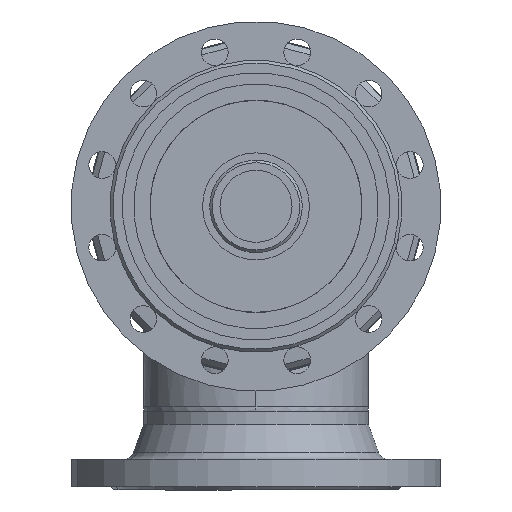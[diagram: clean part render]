
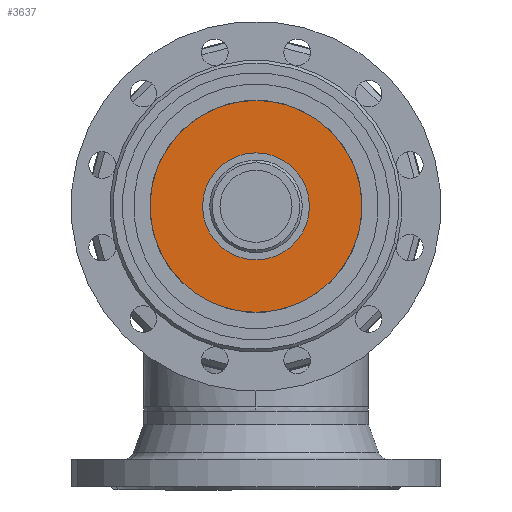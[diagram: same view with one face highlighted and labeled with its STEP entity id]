
A CAD part, front view. The second image highlights one B-rep face of the part: STEP entity #3637.
In plain terms, the highlighted planar face has unit normal (0, -1, 0).
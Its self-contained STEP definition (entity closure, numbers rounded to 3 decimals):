
#135 = ORIENTED_EDGE ( 'NONE', *, *, #22005, .F. ) ;
#660 = EDGE_LOOP ( 'NONE', ( #11070, #8939 ) ) ;
#873 = ORIENTED_EDGE ( 'NONE', *, *, #18616, .F. ) ;
#17389 = CIRCLE ( 'NONE', #17390, 52. ) ;
#17390 = AXIS2_PLACEMENT_3D ( 'NONE', #17391, #17392, #17393 ) ;
#17391 = CARTESIAN_POINT ( 'NONE',  ( 0., -48., 0. ) ) ;
#17392 = DIRECTION ( 'NONE',  ( 0., -1., 0. ) ) ;
#17393 = DIRECTION ( 'NONE',  ( 0., 0., -1. ) ) ;
#1742 = FACE_BOUND ( 'NONE', #8754, .T. ) ;
#1743 = FACE_OUTER_BOUND ( 'NONE', #660, .T. ) ;
#1760 = PLANE ( 'NONE',  #1761 ) ;
#1761 = AXIS2_PLACEMENT_3D ( 'NONE', #1762, #1763, #1764 ) ;
#1762 = CARTESIAN_POINT ( 'NONE',  ( 0., -48., 0. ) ) ;
#1763 = DIRECTION ( 'NONE',  ( 0., -1., 0. ) ) ;
#1764 = DIRECTION ( 'NONE',  ( 0., 0., -1. ) ) ;
#18278 = CIRCLE ( 'NONE', #18279, 120. ) ;
#18279 = AXIS2_PLACEMENT_3D ( 'NONE', #18280, #18281, #18282 ) ;
#18280 = CARTESIAN_POINT ( 'NONE',  ( 0., -48., 0. ) ) ;
#18281 = DIRECTION ( 'NONE',  ( 0., -1., 0. ) ) ;
#18282 = DIRECTION ( 'NONE',  ( 0., 0., -1. ) ) ;
#18616 = EDGE_CURVE ( 'NONE', #20315, #2944, #8490, .T. ) ;
#2423 = EDGE_CURVE ( 'NONE', #4252, #12309, #18278, .T. ) ;
#2568 = CARTESIAN_POINT ( 'NONE',  ( 0., -48., 120. ) ) ;
#2944 = VERTEX_POINT ( 'NONE', #19907 ) ;
#19362 = CARTESIAN_POINT ( 'NONE',  ( 0., -48., -120. ) ) ;
#19565 = CIRCLE ( 'NONE', #19566, 120. ) ;
#19566 = AXIS2_PLACEMENT_3D ( 'NONE', #19567, #19568, #19569 ) ;
#19567 = CARTESIAN_POINT ( 'NONE',  ( 0., -48., 0. ) ) ;
#19568 = DIRECTION ( 'NONE',  ( 0., -1., 0. ) ) ;
#19569 = DIRECTION ( 'NONE',  ( 0., 0., -1. ) ) ;
#19907 = CARTESIAN_POINT ( 'NONE',  ( 0., -48., -52. ) ) ;
#3637 = ADVANCED_FACE ( 'NONE', ( #1742, #1743 ), #1760, .T. ) ;
#20315 = VERTEX_POINT ( 'NONE', #10011 ) ;
#4252 = VERTEX_POINT ( 'NONE', #2568 ) ;
#22005 = EDGE_CURVE ( 'NONE', #2944, #20315, #17389, .T. ) ;
#8490 = CIRCLE ( 'NONE', #8491, 52. ) ;
#8491 = AXIS2_PLACEMENT_3D ( 'NONE', #8492, #8493, #8494 ) ;
#8492 = CARTESIAN_POINT ( 'NONE',  ( 0., -48., 0. ) ) ;
#8493 = DIRECTION ( 'NONE',  ( 0., -1., 0. ) ) ;
#8494 = DIRECTION ( 'NONE',  ( 0., 0., -1. ) ) ;
#8754 = EDGE_LOOP ( 'NONE', ( #135, #873 ) ) ;
#8939 = ORIENTED_EDGE ( 'NONE', *, *, #12443, .T. ) ;
#10011 = CARTESIAN_POINT ( 'NONE',  ( 0., -48., 52. ) ) ;
#11070 = ORIENTED_EDGE ( 'NONE', *, *, #2423, .T. ) ;
#12309 = VERTEX_POINT ( 'NONE', #19362 ) ;
#12443 = EDGE_CURVE ( 'NONE', #12309, #4252, #19565, .T. ) ;
